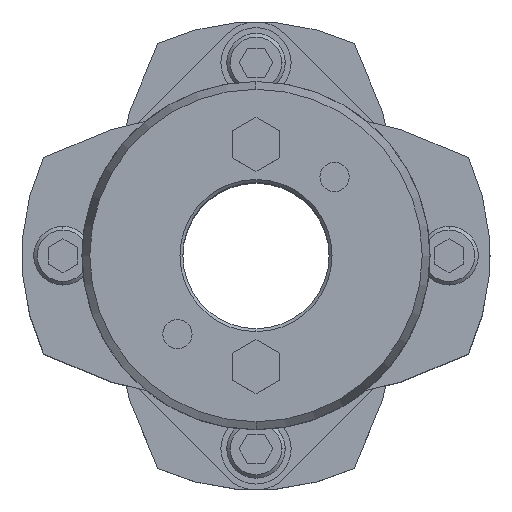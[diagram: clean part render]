
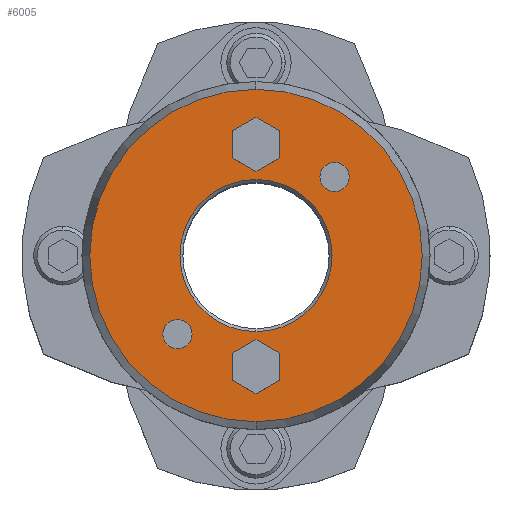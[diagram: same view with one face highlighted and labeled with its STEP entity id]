
A CAD part, top view. The second image highlights one B-rep face of the part: STEP entity #6005.
In plain terms, the highlighted planar face has unit normal (0, 0, 1).
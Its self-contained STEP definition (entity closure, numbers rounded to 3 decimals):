
#1677=CARTESIAN_POINT('',(0.,13.,45.25));
#1678=VERTEX_POINT('',#1677);
#1694=CARTESIAN_POINT('',(0.,-13.,45.25));
#1695=VERTEX_POINT('',#1694);
#1702=CARTESIAN_POINT('',(0.,0.,45.25));
#1703=DIRECTION('',(0.0,0.0,1.0));
#1704=DIRECTION('',(0.,1.0,0.0));
#1705=AXIS2_PLACEMENT_3D('',#1702,#1703,#1704);
#1706=CIRCLE('',#1705,13.0);
#1707=EDGE_CURVE('',#1695,#1678,#1706,.T.);
#1823=CARTESIAN_POINT('',(0.,-28.41,45.25));
#1824=VERTEX_POINT('',#1823);
#1833=CARTESIAN_POINT('',(0.,28.41,45.25));
#1834=VERTEX_POINT('',#1833);
#1835=CARTESIAN_POINT('',(0.,0.,45.25));
#1836=DIRECTION('',(0.0,0.0,-1.0));
#1837=DIRECTION('',(0.,-1.0,0.0));
#1838=AXIS2_PLACEMENT_3D('',#1835,#1836,#1837);
#1839=CIRCLE('',#1838,28.41);
#1840=EDGE_CURVE('',#1824,#1834,#1839,.T.);
#2009=CARTESIAN_POINT('',(13.435,15.935,45.25));
#2010=VERTEX_POINT('',#2009);
#2026=CARTESIAN_POINT('',(13.435,10.935,45.25));
#2027=VERTEX_POINT('',#2026);
#2034=CARTESIAN_POINT('',(13.435,13.435,45.25));
#2035=DIRECTION('',(0.0,0.0,-1.0));
#2036=DIRECTION('',(0.,1.0,0.0));
#2037=AXIS2_PLACEMENT_3D('',#2034,#2035,#2036);
#2038=CIRCLE('',#2037,2.5);
#2039=EDGE_CURVE('',#2010,#2027,#2038,.T.);
#2051=CARTESIAN_POINT('',(-13.435,-10.935,45.25));
#2052=VERTEX_POINT('',#2051);
#2068=CARTESIAN_POINT('',(-13.435,-15.935,45.25));
#2069=VERTEX_POINT('',#2068);
#2076=CARTESIAN_POINT('',(-13.435,-13.435,45.25));
#2077=DIRECTION('',(0.0,0.0,-1.0));
#2078=DIRECTION('',(0.,1.0,0.0));
#2079=AXIS2_PLACEMENT_3D('',#2076,#2077,#2078);
#2080=CIRCLE('',#2079,2.5);
#2081=EDGE_CURVE('',#2052,#2069,#2080,.T.);
#5131=CARTESIAN_POINT('',(0.,-14.381,45.25));
#5132=VERTEX_POINT('',#5131);
#5139=CARTESIAN_POINT('',(-4.,-16.691,45.25));
#5140=VERTEX_POINT('',#5139);
#5141=CARTESIAN_POINT('',(-4.,-16.691,45.25));
#5142=DIRECTION('',(0.866,0.5,0.0));
#5143=VECTOR('',#5142,4.619);
#5144=LINE('',#5141,#5143);
#5145=EDGE_CURVE('',#5140,#5132,#5144,.T.);
#5169=CARTESIAN_POINT('',(4.,-16.691,45.25));
#5170=VERTEX_POINT('',#5169);
#5177=CARTESIAN_POINT('',(0.,-14.381,45.25));
#5178=DIRECTION('',(0.866,-0.5,0.0));
#5179=VECTOR('',#5178,4.619);
#5180=LINE('',#5177,#5179);
#5181=EDGE_CURVE('',#5132,#5170,#5180,.T.);
#5200=CARTESIAN_POINT('',(4.,-21.309,45.25));
#5201=VERTEX_POINT('',#5200);
#5208=CARTESIAN_POINT('',(4.,-16.691,45.25));
#5209=DIRECTION('',(0.,-1.0,0.0));
#5210=VECTOR('',#5209,4.619);
#5211=LINE('',#5208,#5210);
#5212=EDGE_CURVE('',#5170,#5201,#5211,.T.);
#5231=CARTESIAN_POINT('',(0.,-23.619,45.25));
#5232=VERTEX_POINT('',#5231);
#5239=CARTESIAN_POINT('',(4.,-21.309,45.25));
#5240=DIRECTION('',(-0.866,-0.5,0.0));
#5241=VECTOR('',#5240,4.619);
#5242=LINE('',#5239,#5241);
#5243=EDGE_CURVE('',#5201,#5232,#5242,.T.);
#5262=CARTESIAN_POINT('',(-4.,-21.309,45.25));
#5263=VERTEX_POINT('',#5262);
#5270=CARTESIAN_POINT('',(0.,-23.619,45.25));
#5271=DIRECTION('',(-0.866,0.5,0.0));
#5272=VECTOR('',#5271,4.619);
#5273=LINE('',#5270,#5272);
#5274=EDGE_CURVE('',#5232,#5263,#5273,.T.);
#5292=CARTESIAN_POINT('',(-4.,-21.309,45.25));
#5293=DIRECTION('',(0.,1.0,0.0));
#5294=VECTOR('',#5293,4.619);
#5295=LINE('',#5292,#5294);
#5296=EDGE_CURVE('',#5263,#5140,#5295,.T.);
#5331=CARTESIAN_POINT('',(0.,23.619,45.25));
#5332=VERTEX_POINT('',#5331);
#5339=CARTESIAN_POINT('',(-4.,21.309,45.25));
#5340=VERTEX_POINT('',#5339);
#5341=CARTESIAN_POINT('',(-4.,21.309,45.25));
#5342=DIRECTION('',(0.866,0.5,0.0));
#5343=VECTOR('',#5342,4.619);
#5344=LINE('',#5341,#5343);
#5345=EDGE_CURVE('',#5340,#5332,#5344,.T.);
#5369=CARTESIAN_POINT('',(4.,21.309,45.25));
#5370=VERTEX_POINT('',#5369);
#5377=CARTESIAN_POINT('',(0.,23.619,45.25));
#5378=DIRECTION('',(0.866,-0.5,0.0));
#5379=VECTOR('',#5378,4.619);
#5380=LINE('',#5377,#5379);
#5381=EDGE_CURVE('',#5332,#5370,#5380,.T.);
#5400=CARTESIAN_POINT('',(4.,16.691,45.25));
#5401=VERTEX_POINT('',#5400);
#5408=CARTESIAN_POINT('',(4.,21.309,45.25));
#5409=DIRECTION('',(0.,-1.0,0.0));
#5410=VECTOR('',#5409,4.619);
#5411=LINE('',#5408,#5410);
#5412=EDGE_CURVE('',#5370,#5401,#5411,.T.);
#5431=CARTESIAN_POINT('',(0.,14.381,45.25));
#5432=VERTEX_POINT('',#5431);
#5439=CARTESIAN_POINT('',(4.,16.691,45.25));
#5440=DIRECTION('',(-0.866,-0.5,0.0));
#5441=VECTOR('',#5440,4.619);
#5442=LINE('',#5439,#5441);
#5443=EDGE_CURVE('',#5401,#5432,#5442,.T.);
#5462=CARTESIAN_POINT('',(-4.,16.691,45.25));
#5463=VERTEX_POINT('',#5462);
#5470=CARTESIAN_POINT('',(0.,14.381,45.25));
#5471=DIRECTION('',(-0.866,0.5,0.0));
#5472=VECTOR('',#5471,4.619);
#5473=LINE('',#5470,#5472);
#5474=EDGE_CURVE('',#5432,#5463,#5473,.T.);
#5492=CARTESIAN_POINT('',(-4.,16.691,45.25));
#5493=DIRECTION('',(0.,1.0,0.0));
#5494=VECTOR('',#5493,4.619);
#5495=LINE('',#5492,#5494);
#5496=EDGE_CURVE('',#5463,#5340,#5495,.T.);
#5522=CARTESIAN_POINT('',(-13.435,-13.435,45.25));
#5523=DIRECTION('',(0.0,0.0,-1.0));
#5524=DIRECTION('',(0.,1.0,0.0));
#5525=AXIS2_PLACEMENT_3D('',#5522,#5523,#5524);
#5526=CIRCLE('',#5525,2.5);
#5527=EDGE_CURVE('',#2069,#2052,#5526,.T.);
#5556=CARTESIAN_POINT('',(13.435,13.435,45.25));
#5557=DIRECTION('',(0.0,0.0,-1.0));
#5558=DIRECTION('',(0.,1.0,0.0));
#5559=AXIS2_PLACEMENT_3D('',#5556,#5557,#5558);
#5560=CIRCLE('',#5559,2.5);
#5561=EDGE_CURVE('',#2027,#2010,#5560,.T.);
#5952=CARTESIAN_POINT('',(0.,0.,45.25));
#5953=DIRECTION('',(0.0,0.0,-1.0));
#5954=DIRECTION('',(0.,-1.0,0.0));
#5955=AXIS2_PLACEMENT_3D('',#5952,#5953,#5954);
#5956=CIRCLE('',#5955,28.41);
#5957=EDGE_CURVE('',#1834,#1824,#5956,.T.);
#5962=CARTESIAN_POINT('',(0.,2.364,45.25));
#5963=DIRECTION('',(0.0,0.0,1.0));
#5964=DIRECTION('',(0.,1.0,0.0));
#5965=AXIS2_PLACEMENT_3D('',#5962,#5963,#5964);
#5966=PLANE('',#5965);
#5967=ORIENTED_EDGE('',*,*,#5957,.F.);
#5968=ORIENTED_EDGE('',*,*,#1840,.F.);
#5969=EDGE_LOOP('',(#5967,#5968));
#5970=FACE_OUTER_BOUND('',#5969,.T.);
#5971=ORIENTED_EDGE('',*,*,#5145,.T.);
#5972=ORIENTED_EDGE('',*,*,#5181,.T.);
#5973=ORIENTED_EDGE('',*,*,#5212,.T.);
#5974=ORIENTED_EDGE('',*,*,#5243,.T.);
#5975=ORIENTED_EDGE('',*,*,#5274,.T.);
#5976=ORIENTED_EDGE('',*,*,#5296,.T.);
#5977=EDGE_LOOP('',(#5971,#5972,#5973,#5974,#5975,#5976));
#5978=FACE_BOUND('',#5977,.T.);
#5979=ORIENTED_EDGE('',*,*,#5345,.T.);
#5980=ORIENTED_EDGE('',*,*,#5381,.T.);
#5981=ORIENTED_EDGE('',*,*,#5412,.T.);
#5982=ORIENTED_EDGE('',*,*,#5443,.T.);
#5983=ORIENTED_EDGE('',*,*,#5474,.T.);
#5984=ORIENTED_EDGE('',*,*,#5496,.T.);
#5985=EDGE_LOOP('',(#5979,#5980,#5981,#5982,#5983,#5984));
#5986=FACE_BOUND('',#5985,.T.);
#5987=ORIENTED_EDGE('',*,*,#2081,.T.);
#5988=ORIENTED_EDGE('',*,*,#5527,.T.);
#5989=EDGE_LOOP('',(#5987,#5988));
#5990=FACE_BOUND('',#5989,.T.);
#5991=ORIENTED_EDGE('',*,*,#2039,.T.);
#5992=ORIENTED_EDGE('',*,*,#5561,.T.);
#5993=EDGE_LOOP('',(#5991,#5992));
#5994=FACE_BOUND('',#5993,.T.);
#5995=ORIENTED_EDGE('',*,*,#1707,.F.);
#5996=CARTESIAN_POINT('',(0.,0.,45.25));
#5997=DIRECTION('',(0.0,0.0,1.0));
#5998=DIRECTION('',(0.,1.0,0.0));
#5999=AXIS2_PLACEMENT_3D('',#5996,#5997,#5998);
#6000=CIRCLE('',#5999,13.0);
#6001=EDGE_CURVE('',#1678,#1695,#6000,.T.);
#6002=ORIENTED_EDGE('',*,*,#6001,.F.);
#6003=EDGE_LOOP('',(#5995,#6002));
#6004=FACE_BOUND('',#6003,.T.);
#6005=ADVANCED_FACE('',(#5970,#5978,#5986,#5990,#5994,#6004),#5966,.T.);
